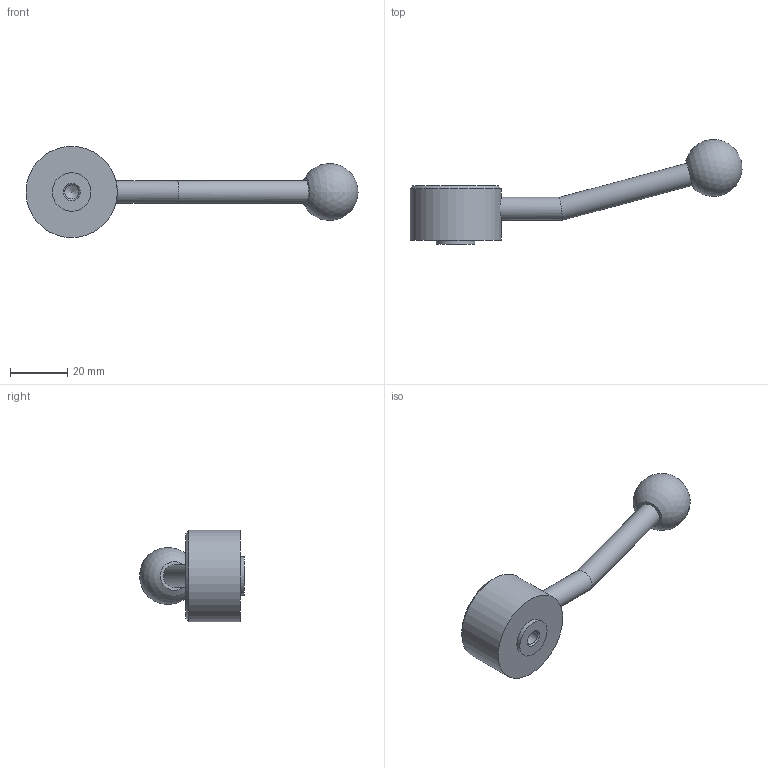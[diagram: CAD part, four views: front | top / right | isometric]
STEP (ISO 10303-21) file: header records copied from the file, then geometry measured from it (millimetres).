
FILE_DESCRIPTION( ( 'STEP AP203' ), '1' );
FILE_NAME( 'C:/Temp/Ganter_Step_05_03_2020/data/2_1/gn_125/gn_125_mb/gn_125_mb_e/Flat Adjustable Lever GN 125-32-M6-E.stp', '2020-03-05T11:00:41', ( 'License CC BY-ND 4.0' ), ( 'CADENAS' ), ' ', 'PARTsolutions', ' ' );
FILE_SCHEMA( ( 'CONFIG_CONTROL_DESIGN' ) );
Length unit declared in the file: millimetre
Products named in the file (1): _Flat Adjustable Lever GN 125-32-M6-E
Bounding box: 116.32 x 36.72 x 32 mm (x, y, z)
Volume: 22667.6 mm3; surface area: 6562.5 mm2
Topology: 1 solids, 1 shells, 15 faces, 28 edges, 18 vertices
Faces by surface type: cylinder 6, plane 5, cone 3, sphere 1
Full cylindrical faces by diameter (mm): 4.917 x1, 8 x2, 13.5 x1, 22 x1, 32 x1
Entity records: 408 total; most frequent: CARTESIAN_POINT 111, DIRECTION 58, AXIS2_PLACEMENT_3D 29, EDGE_LOOP 28, ORIENTED_EDGE 28, FACE_OUTER_BOUND 21, VERTEX_POINT 16, ADVANCED_FACE 15
